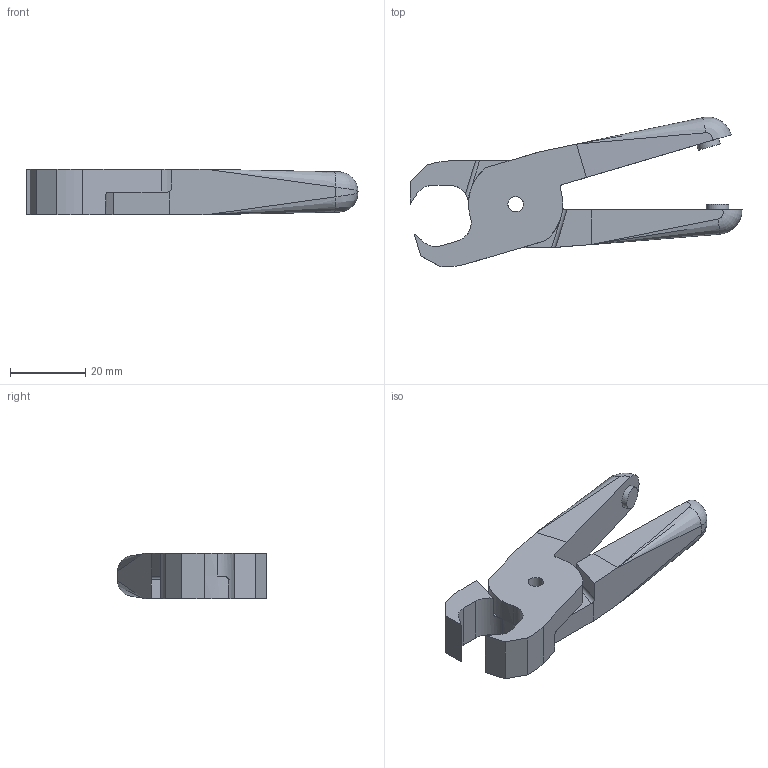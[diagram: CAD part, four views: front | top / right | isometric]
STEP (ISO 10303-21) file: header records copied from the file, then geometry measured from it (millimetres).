
FILE_DESCRIPTION(/* description */ (''),/* implementation_level */ '2;1');
FILE_NAME(/* name */ 'W:\Technik\Konstruktion\CAD-Daten\DJa\Vessel Schneidzangeneinsatz\N20AE\N20AE open.stp',/* time_stamp */ '2016-08-31T11:44:35+02:00',/* author */ ('DJansen'),/* organization */ (''),/* preprocessor_version */ 'ST-DEVELOPER v16.1',/* originating_system */ 'Autodesk Inventor 2016',/* authorisation */ '');
FILE_SCHEMA (('AUTOMOTIVE_DESIGN { 1 0 10303 214 3 1 1 }'));
Length unit declared in the file: centimetre
Products named in the file (1): N20AE Baugruppe
Bounding box: 88 x 39.67 x 12 mm (x, y, z)
Volume: 16818.3 mm3; surface area: 7284.4 mm2
Topology: 1 solids, 1 shells, 69 faces, 190 edges, 121 vertices
Faces by surface type: plane 42, cylinder 19, bspline 8
Full cylindrical faces by diameter (mm): 4.1 x1, 6 x2
Entity records: 6503 total; most frequent: CARTESIAN_POINT 4703, ORIENTED_EDGE 364, DIRECTION 338, EDGE_CURVE 182, VERTEX_POINT 120, LINE 114, VECTOR 114, AXIS2_PLACEMENT_3D 112
